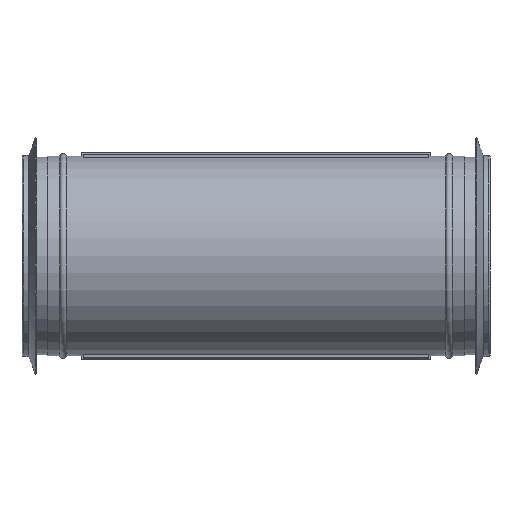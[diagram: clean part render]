
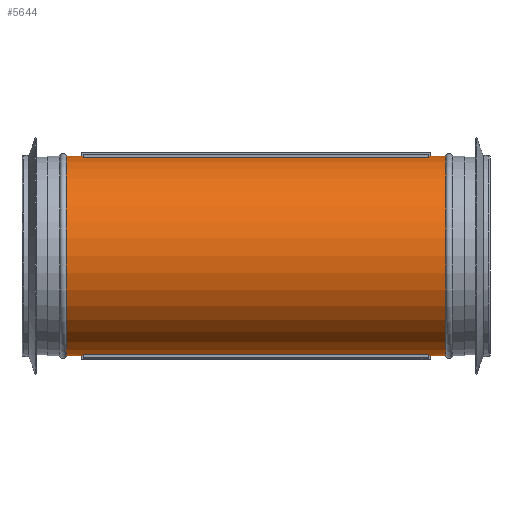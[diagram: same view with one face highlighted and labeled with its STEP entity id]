
A CAD part, top view. The second image highlights one B-rep face of the part: STEP entity #5644.
In plain terms, the highlighted cylindrical face has radius 79 mm (diameter 158 mm), a full revolution.
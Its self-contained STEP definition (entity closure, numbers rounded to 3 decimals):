
#260=CYLINDRICAL_SURFACE('',#6038,79.);
#326=FACE_BOUND('',#793,.T.);
#327=FACE_BOUND('',#794,.T.);
#439=FACE_OUTER_BOUND('',#792,.T.);
#792=EDGE_LOOP('',(#3601));
#793=EDGE_LOOP('',(#3602,#3603,#3604,#3605));
#794=EDGE_LOOP('',(#3606));
#1261=LINE('',#8252,#1585);
#1262=LINE('',#8253,#1586);
#1585=VECTOR('',#6715,10.);
#1586=VECTOR('',#6716,10.);
#1875=CIRCLE('',#6001,79.);
#1881=CIRCLE('',#6008,79.);
#1899=CIRCLE('',#6039,79.);
#1900=CIRCLE('',#6040,79.);
#2182=VERTEX_POINT('',#8125);
#2183=VERTEX_POINT('',#8126);
#2196=VERTEX_POINT('',#8153);
#2197=VERTEX_POINT('',#8155);
#2235=VERTEX_POINT('',#8250);
#2236=VERTEX_POINT('',#8254);
#2744=EDGE_CURVE('',#2182,#2183,#1875,.T.);
#2758=EDGE_CURVE('',#2197,#2196,#1881,.T.);
#2806=EDGE_CURVE('',#2235,#2235,#1899,.T.);
#2807=EDGE_CURVE('',#2183,#2197,#1261,.T.);
#2808=EDGE_CURVE('',#2196,#2182,#1262,.T.);
#2809=EDGE_CURVE('',#2236,#2236,#1900,.T.);
#3601=ORIENTED_EDGE('',*,*,#2806,.F.);
#3602=ORIENTED_EDGE('',*,*,#2744,.T.);
#3603=ORIENTED_EDGE('',*,*,#2807,.T.);
#3604=ORIENTED_EDGE('',*,*,#2758,.T.);
#3605=ORIENTED_EDGE('',*,*,#2808,.T.);
#3606=ORIENTED_EDGE('',*,*,#2809,.T.);
#5644=ADVANCED_FACE('',(#439,#326,#327),#260,.T.);
#6001=AXIS2_PLACEMENT_3D('',#8127,#6603,#6604);
#6008=AXIS2_PLACEMENT_3D('',#8156,#6625,#6626);
#6038=AXIS2_PLACEMENT_3D('',#8249,#6711,#6712);
#6039=AXIS2_PLACEMENT_3D('',#8251,#6713,#6714);
#6040=AXIS2_PLACEMENT_3D('',#8255,#6717,#6718);
#6603=DIRECTION('center_axis',(-1.,0.,0.));
#6604=DIRECTION('ref_axis',(0.,0.,
-1.));
#6625=DIRECTION('center_axis',(1.,0.,0.));
#6626=DIRECTION('ref_axis',(0.,0.,
-1.));
#6711=DIRECTION('center_axis',(-1.,0.,0.));
#6712=DIRECTION('ref_axis',(0.,0.,
-1.));
#6713=DIRECTION('center_axis',(-1.,0.,0.));
#6714=DIRECTION('ref_axis',(0.,0.,
-1.));
#6715=DIRECTION('',(1.,0.,0.));
#6716=DIRECTION('',(-1.,0.,0.));
#6717=DIRECTION('center_axis',(-1.,0.,0.));
#6718=DIRECTION('ref_axis',(0.,0.,
-1.));
#8125=CARTESIAN_POINT('',(53.2,77.637,12.919));
#8126=CARTESIAN_POINT('',(53.2,-78.237,12.919));
#8127=CARTESIAN_POINT('Origin',(53.2,-0.3,0.));
#8153=CARTESIAN_POINT('',(326.2,77.637,12.919));
#8155=CARTESIAN_POINT('',(326.2,-78.237,12.919));
#8156=CARTESIAN_POINT('Origin',(326.2,-0.3,0.));
#8249=CARTESIAN_POINT('Origin',(189.7,-0.3,0.));
#8250=CARTESIAN_POINT('',(39.808,-0.3,-79.));
#8251=CARTESIAN_POINT('Origin',(39.808,-0.3,0.));
#8252=CARTESIAN_POINT('',(189.7,-78.237,12.919));
#8253=CARTESIAN_POINT('',(189.7,77.637,12.919));
#8254=CARTESIAN_POINT('',(339.592,-0.3,-79.));
#8255=CARTESIAN_POINT('Origin',(339.592,-0.3,0.));
